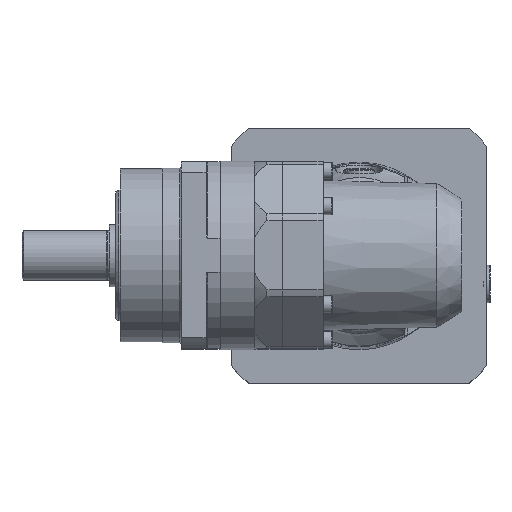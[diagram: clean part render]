
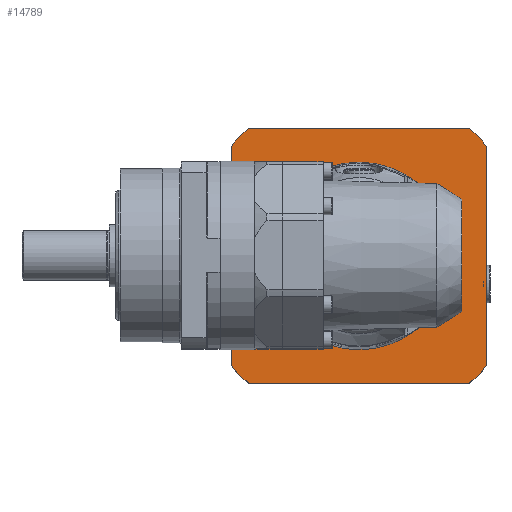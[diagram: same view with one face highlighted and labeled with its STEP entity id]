
A CAD part, top view. The second image highlights one B-rep face of the part: STEP entity #14789.
In plain terms, the highlighted planar face has unit normal (0, 0, 1) as drawn and (-1, 0, 0) by its records, which use the part's own axes.
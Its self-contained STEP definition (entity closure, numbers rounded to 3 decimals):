
#1087=FACE_BOUND('',#3126,.T.);
#1364=PLANE('',#17272);
#2122=FACE_OUTER_BOUND('',#3125,.T.);
#3125=EDGE_LOOP('',(#13509,#13510,#13511,#13512,#13513,#13514,#13515,#13516));
#3126=EDGE_LOOP('',(#13517,#13518));
#3978=LINE('',#28684,#4683);
#3981=LINE('',#28690,#4686);
#3984=LINE('',#28696,#4689);
#3987=LINE('',#28705,#4692);
#4683=VECTOR('',#21797,10.);
#4686=VECTOR('',#21802,10.);
#4689=VECTOR('',#21807,10.);
#4692=VECTOR('',#21818,10.);
#5807=CIRCLE('',#17273,54.);
#5808=CIRCLE('',#17274,54.);
#5809=CIRCLE('',#17275,54.);
#5810=CIRCLE('',#17276,54.);
#5811=CIRCLE('',#17277,30.);
#5812=CIRCLE('',#17278,30.);
#7387=VERTEX_POINT('',#28682);
#7388=VERTEX_POINT('',#28683);
#7389=VERTEX_POINT('',#28688);
#7390=VERTEX_POINT('',#28689);
#7391=VERTEX_POINT('',#28694);
#7392=VERTEX_POINT('',#28695);
#7393=VERTEX_POINT('',#28702);
#7394=VERTEX_POINT('',#28704);
#7395=VERTEX_POINT('',#28707);
#7396=VERTEX_POINT('',#28708);
#9456=EDGE_CURVE('',#7387,#7388,#3978,.T.);
#9459=EDGE_CURVE('',#7389,#7390,#3981,.T.);
#9462=EDGE_CURVE('',#7391,#7392,#3984,.T.);
#9465=EDGE_CURVE('',#7389,#7388,#5807,.T.);
#9466=EDGE_CURVE('',#7391,#7390,#5808,.T.);
#9467=EDGE_CURVE('',#7393,#7392,#5809,.T.);
#9468=EDGE_CURVE('',#7393,#7394,#3987,.T.);
#9469=EDGE_CURVE('',#7387,#7394,#5810,.T.);
#9470=EDGE_CURVE('',#7395,#7396,#5811,.T.);
#9471=EDGE_CURVE('',#7396,#7395,#5812,.T.);
#13509=ORIENTED_EDGE('',*,*,#9456,.T.);
#13510=ORIENTED_EDGE('',*,*,#9465,.F.);
#13511=ORIENTED_EDGE('',*,*,#9459,.T.);
#13512=ORIENTED_EDGE('',*,*,#9466,.F.);
#13513=ORIENTED_EDGE('',*,*,#9462,.T.);
#13514=ORIENTED_EDGE('',*,*,#9467,.F.);
#13515=ORIENTED_EDGE('',*,*,#9468,.T.);
#13516=ORIENTED_EDGE('',*,*,#9469,.F.);
#13517=ORIENTED_EDGE('',*,*,#9470,.T.);
#13518=ORIENTED_EDGE('',*,*,#9471,.T.);
#14789=ADVANCED_FACE('',(#2122,#1087),#1364,.T.);
#17272=AXIS2_PLACEMENT_3D('',#28699,#21810,#21811);
#17273=AXIS2_PLACEMENT_3D('',#28700,#21812,#21813);
#17274=AXIS2_PLACEMENT_3D('',#28701,#21814,#21815);
#17275=AXIS2_PLACEMENT_3D('',#28703,#21816,#21817);
#17276=AXIS2_PLACEMENT_3D('',#28706,#21819,#21820);
#17277=AXIS2_PLACEMENT_3D('',#28709,#21821,#21822);
#17278=AXIS2_PLACEMENT_3D('',#28710,#21823,#21824);
#21797=DIRECTION('',(0.,-0.707,-0.707));
#21802=DIRECTION('',(0.,-0.707,0.707));
#21807=DIRECTION('',(0.,0.707,0.707));
#21810=DIRECTION('center_axis',(-1.,0.,0.));
#21811=DIRECTION('ref_axis',(0.,0.,1.));
#21812=DIRECTION('center_axis',(1.,0.,0.));
#21813=DIRECTION('ref_axis',(0.,1.,0.));
#21814=DIRECTION('center_axis',(1.,0.,0.));
#21815=DIRECTION('ref_axis',(0.,1.,0.));
#21816=DIRECTION('center_axis',(1.,0.,0.));
#21817=DIRECTION('ref_axis',(0.,1.,0.));
#21818=DIRECTION('',(0.,0.707,-0.707));
#21819=DIRECTION('center_axis',(1.,0.,0.));
#21820=DIRECTION('ref_axis',(0.,1.,0.));
#21821=DIRECTION('center_axis',(1.,0.,0.));
#21822=DIRECTION('ref_axis',(0.,1.,0.));
#21823=DIRECTION('center_axis',(1.,0.,0.));
#21824=DIRECTION('ref_axis',(0.,1.,0.));
#28682=CARTESIAN_POINT('',(4.,53.841,-4.142));
#28683=CARTESIAN_POINT('',(4.,4.142,-53.841));
#28684=CARTESIAN_POINT('',(4.,51.916,-6.067));
#28688=CARTESIAN_POINT('',(4.,-4.142,-53.841));
#28689=CARTESIAN_POINT('',(4.,-53.841,-4.142));
#28690=CARTESIAN_POINT('',(4.,-6.067,-51.916));
#28694=CARTESIAN_POINT('',(4.,-53.841,4.142));
#28695=CARTESIAN_POINT('',(4.,-4.142,53.841));
#28696=CARTESIAN_POINT('',(4.,-30.916,27.067));
#28699=CARTESIAN_POINT('Origin',(4.,42.,0.));
#28700=CARTESIAN_POINT('Origin',(4.,0.,0.));
#28701=CARTESIAN_POINT('Origin',(4.,0.,0.));
#28702=CARTESIAN_POINT('',(4.,4.142,53.841));
#28703=CARTESIAN_POINT('Origin',(4.,0.,0.));
#28704=CARTESIAN_POINT('',(4.,53.841,4.142));
#28705=CARTESIAN_POINT('',(4.,27.067,30.916));
#28706=CARTESIAN_POINT('Origin',(4.,0.,0.));
#28707=CARTESIAN_POINT('',(4.,30.,0.));
#28708=CARTESIAN_POINT('',(4.,-30.,0.));
#28709=CARTESIAN_POINT('Origin',(4.,0.,0.));
#28710=CARTESIAN_POINT('Origin',(4.,0.,0.));
